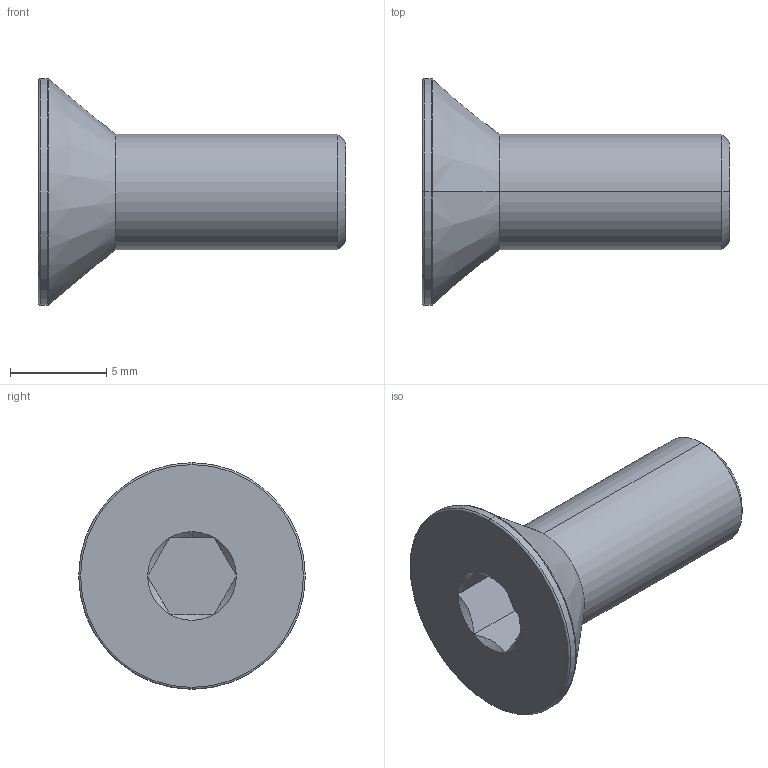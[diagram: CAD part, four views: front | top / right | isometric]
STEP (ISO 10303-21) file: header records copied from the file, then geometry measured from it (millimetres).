
FILE_DESCRIPTION (( 'STEP AP203' ), '1' );
FILE_NAME ('LGDB-TDE-M6x16.STEP', '2026-08-10T13:12:28', ( '' ), ( '' ), 'SwSTEP 2.0', 'SolidWorks 2020', '' );
FILE_SCHEMA (( 'CONFIG_CONTROL_DESIGN' ));
Length unit declared in the file: millimetre
Products named in the file (1): LGDB-TDE-M6x16
Bounding box: 16 x 11.8 x 11.8 mm (x, y, z)
Volume: 576 mm3; surface area: 543.2 mm2
Topology: 1 solids, 1 shells, 28 faces, 53 edges, 28 vertices
Faces by surface type: cone 11, plane 9, torus 4, cylinder 4
Entity records: 796 total; most frequent: CARTESIAN_POINT 157, DIRECTION 129, ORIENTED_EDGE 106, AXIS2_PLACEMENT_3D 54, EDGE_CURVE 53, EDGE_LOOP 29, ADVANCED_FACE 28, VERTEX_POINT 28
